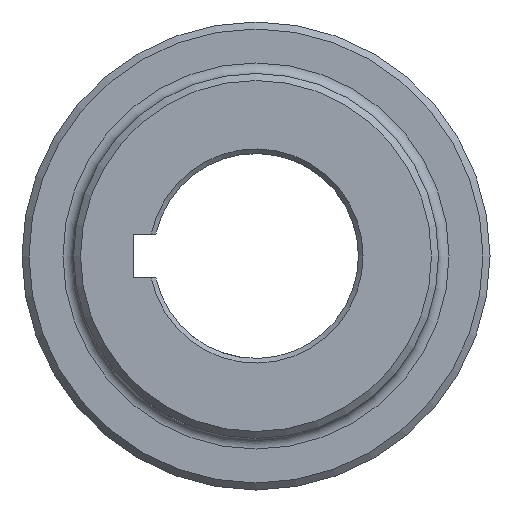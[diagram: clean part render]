
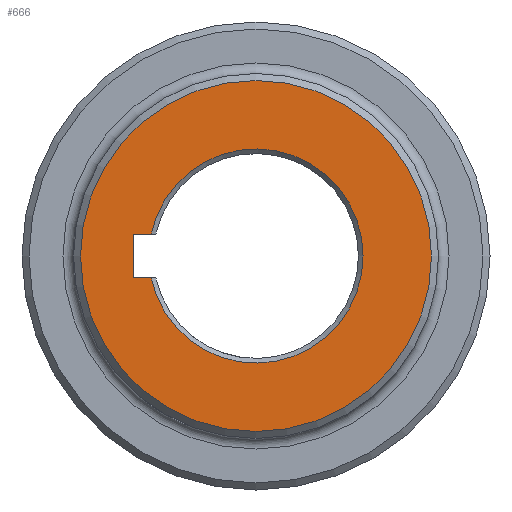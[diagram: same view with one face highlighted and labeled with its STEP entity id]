
A CAD part, left-side view. The second image highlights one B-rep face of the part: STEP entity #666.
In plain terms, the highlighted planar face has unit normal (-1, 0, 0).
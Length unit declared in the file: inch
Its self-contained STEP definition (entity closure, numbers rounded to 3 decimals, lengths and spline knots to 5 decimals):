
#22 = DIRECTION ( 'NONE',  ( -1., 0., 0. ) ) ;
#28 = CARTESIAN_POINT ( 'NONE',  ( 0., 1.04775, -0.1875 ) ) ;
#77 = EDGE_CURVE ( 'NONE', #1071, #1543, #1633, .T. ) ;
#183 = CARTESIAN_POINT ( 'NONE',  ( 0., 0.89584, -0.1875 ) ) ;
#282 = ORIENTED_EDGE ( 'NONE', *, *, #2134, .F. ) ;
#300 = EDGE_CURVE ( 'NONE', #1543, #338, #1940, .T. ) ;
#320 = CARTESIAN_POINT ( 'NONE',  ( 0., 0., 0. ) ) ;
#338 = VERTEX_POINT ( 'NONE', #183 ) ;
#371 = FACE_OUTER_BOUND ( 'NONE', #747, .T. ) ;
#375 = DIRECTION ( 'NONE',  ( 1., 0., 0. ) ) ;
#409 = DIRECTION ( 'NONE',  ( 0., 0., -1. ) ) ;
#421 = VERTEX_POINT ( 'NONE', #430 ) ;
#430 = CARTESIAN_POINT ( 'NONE',  ( 0., 0.89584, 0.1875 ) ) ;
#469 = DIRECTION ( 'NONE',  ( 0., 0., -1. ) ) ;
#483 = ORIENTED_EDGE ( 'NONE', *, *, #2024, .T. ) ;
#552 = FACE_BOUND ( 'NONE', #1170, .T. ) ;
#659 = CARTESIAN_POINT ( 'NONE',  ( 0., 0., -0.1875 ) ) ;
#666 = ADVANCED_FACE ( 'NONE', ( #371, #552 ), #933, .F. ) ;
#747 = EDGE_LOOP ( 'NONE', ( #483 ) ) ;
#829 = AXIS2_PLACEMENT_3D ( 'NONE', #2248, #375, #409 ) ;
#844 = DIRECTION ( 'NONE',  ( 0., 0., -1. ) ) ;
#858 = ORIENTED_EDGE ( 'NONE', *, *, #300, .F. ) ;
#893 = VECTOR ( 'NONE', #2089, 39.37008 ) ;
#927 = EDGE_CURVE ( 'NONE', #421, #338, #1240, .T. ) ;
#933 = PLANE ( 'NONE',  #1977 ) ;
#1007 = AXIS2_PLACEMENT_3D ( 'NONE', #320, #22, #1251 ) ;
#1038 = CIRCLE ( 'NONE', #1007, 1.5 ) ;
#1045 = VECTOR ( 'NONE', #844, 39.37008 ) ;
#1071 = VERTEX_POINT ( 'NONE', #2253 ) ;
#1170 = EDGE_LOOP ( 'NONE', ( #282, #2191, #858, #2241 ) ) ;
#1240 = CIRCLE ( 'NONE', #829, 0.91525 ) ;
#1251 = DIRECTION ( 'NONE',  ( 0., 0., -1. ) ) ;
#1296 = CARTESIAN_POINT ( 'NONE',  ( 0., 1.04775, -0.1875 ) ) ;
#1480 = VERTEX_POINT ( 'NONE', #1713 ) ;
#1543 = VERTEX_POINT ( 'NONE', #28 ) ;
#1565 = DIRECTION ( 'NONE',  ( 1., 0., 0. ) ) ;
#1633 = LINE ( 'NONE', #1296, #1045 ) ;
#1713 = CARTESIAN_POINT ( 'NONE',  ( 0., 0., -1.5 ) ) ;
#1754 = DIRECTION ( 'NONE',  ( 0., 1., 0. ) ) ;
#1824 = LINE ( 'NONE', #2006, #2041 ) ;
#1940 = LINE ( 'NONE', #659, #893 ) ;
#1977 = AXIS2_PLACEMENT_3D ( 'NONE', #2243, #1565, #469 ) ;
#2006 = CARTESIAN_POINT ( 'NONE',  ( 0., 0., 0.1875 ) ) ;
#2024 = EDGE_CURVE ( 'NONE', #1480, #1480, #1038, .T. ) ;
#2041 = VECTOR ( 'NONE', #1754, 39.37008 ) ;
#2089 = DIRECTION ( 'NONE',  ( 0., -1., 0. ) ) ;
#2134 = EDGE_CURVE ( 'NONE', #421, #1071, #1824, .T. ) ;
#2191 = ORIENTED_EDGE ( 'NONE', *, *, #927, .T. ) ;
#2241 = ORIENTED_EDGE ( 'NONE', *, *, #77, .F. ) ;
#2243 = CARTESIAN_POINT ( 'NONE',  ( 0., 0., 0. ) ) ;
#2248 = CARTESIAN_POINT ( 'NONE',  ( 0., 0., 0. ) ) ;
#2253 = CARTESIAN_POINT ( 'NONE',  ( 0., 1.04775, 0.1875 ) ) ;
